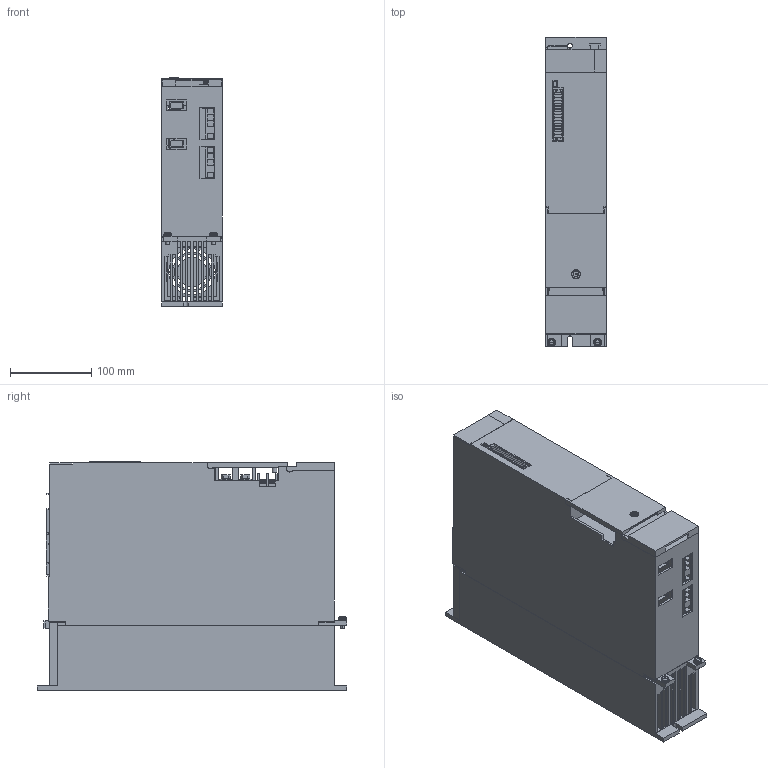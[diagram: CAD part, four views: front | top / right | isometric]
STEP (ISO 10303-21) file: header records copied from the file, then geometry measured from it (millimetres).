
FILE_DESCRIPTION((''),'2;1');
FILE_NAME('MR-J5D2-500G4A_ASM','2021-03-23T20:06:22',('VX25986'),(''),'CREO PARAMETRIC BY PTC INC, 2020184','CREO PARAMETRIC BY PTC INC, 2020184','');
FILE_SCHEMA(('CONFIG_CONTROL_DESIGN'));
Length unit declared in the file: millimetre
Products named in the file (28): J5D-W75-FIN; J5D-W75-CASE; J5D-W75-COVER1; J5D-W75-COVER2; J5D-LOCK; J5D-W75-FAN; J5D-LENZ; J5D-W75-LENZ; J5D-COV-CN40A; J5D-COV-CN40B; J5D-COV-CN7; J5D-COV-CN8; FAN60; J5D-CN1A; J5D-CN2A; J5D-CN3; J5D-CN4; J5D-CN5; J5D-CN8; J5D-CN40A; J5D-CN40B; J5D-TE2; J5D-TE3; J5D-CNP3; SW-PW-P-NA-M4X10; SW-PW-P-NA-M5X12; SW-PW-P-UP-M6X18; MR-J5D2-500G4A_ASM
Assembly tree (34 placements, depth 2):
  MR-J5D2-500G4A_ASM
    J5D-W75-FIN
    J5D-W75-CASE
    J5D-W75-COVER1
    J5D-W75-COVER2
    J5D-LOCK
    J5D-W75-FAN
    J5D-LENZ
    J5D-W75-LENZ
    J5D-COV-CN40A
    J5D-COV-CN40B
    J5D-COV-CN7
    J5D-COV-CN8
    FAN60
    J5D-CN1A  x2
    J5D-CN2A  x2
    J5D-CN3
    J5D-CN4
    J5D-CN5
    J5D-CN8
    J5D-CN40A
    J5D-CN40B
    J5D-TE2
    J5D-TE3
    J5D-CNP3  x2
    SW-PW-P-NA-M4X10  x3
    SW-PW-P-NA-M5X12  x2
    SW-PW-P-UP-M6X18  x2
Bounding box: 75 x 380 x 281.3 mm (x, y, z)
Volume: 1794937.6 mm3; surface area: 1083970.5 mm2
Topology: 35 solids, 39 shells, 1385 faces, 3681 edges, 2432 vertices
Faces by surface type: plane 1102, cylinder 253, cone 10, torus 10, sphere 10
Entity records: 37994 total; most frequent: CARTESIAN_POINT 6652, ORIENTED_EDGE 6432, DIRECTION 6212, EDGE_CURVE 3220, VECTOR 2722, LINE 2722, VERTEX_POINT 2138, AXIS2_PLACEMENT_3D 1745
